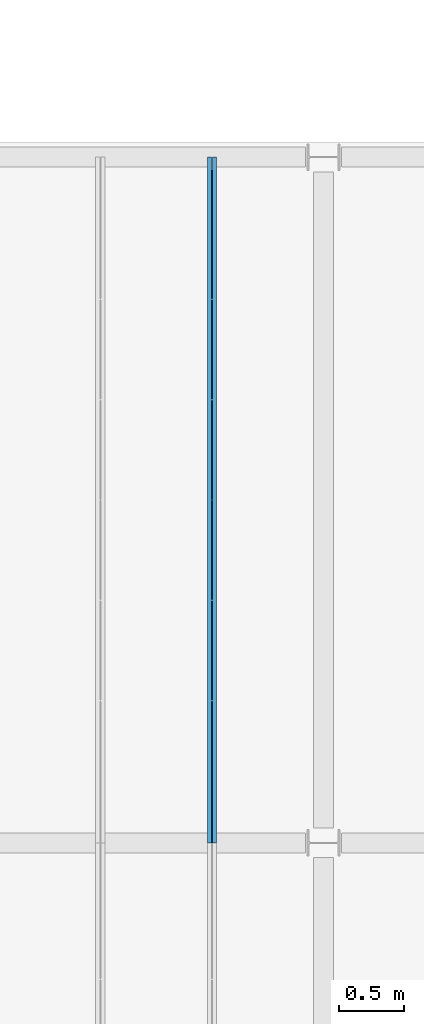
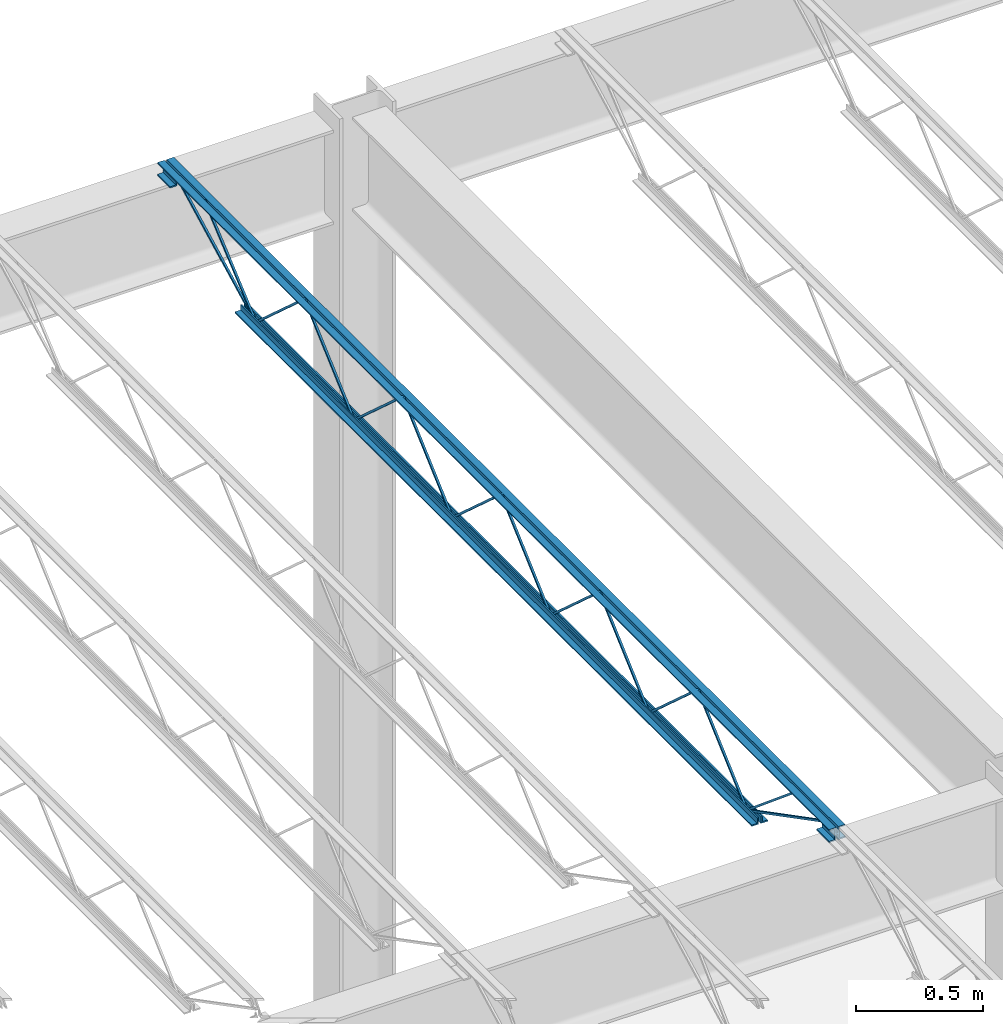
# One storey, part 105 of 119: 1 beam.
"""IFC2X3 building model written with IfcOpenShell, lengths in metres."""

from ifc_helpers import new_model, entity, si_unit, converted_unit, frame, origin, place, context, project, spatial, face_set, surface_model, element, save


model = new_model("IFC2X3")

# Units and contexts
model_context = context("Model", 3, precision=1e-09, world=origin())
plan_context = context("Plan", 3, precision=1e-09, world=origin())
ifc_project = project(units=[si_unit("LENGTHUNIT", "METRE"), si_unit("AREAUNIT", "SQUARE_METRE"), si_unit("VOLUMEUNIT", "CUBIC_METRE"), converted_unit("PLANEANGLEUNIT", "DEGREE", entity("IfcRatioMeasure", 0.01745329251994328), si_unit("PLANEANGLEUNIT", "RADIAN"), dimensions=[0, 0, 0, 0, 0, 0, 0]), si_unit("TIMEUNIT", "SECOND")], contexts=[model_context, plan_context])

# Site, building, storey
site_placement = place(None, origin())
site = spatial("IfcSite", under=ifc_project, at=site_placement, Name="Default", CompositionType="ELEMENT")
building_placement = place(site_placement, origin())
building = spatial("IfcBuilding", under=site, at=building_placement, CompositionType="ELEMENT")
storey_placement = place(building_placement, frame((0.0, 0.0, 4.570000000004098)))
storey = spatial("IfcBuildingStorey", under=building, at=storey_placement, Name="Second Floor", CompositionType="ELEMENT", Elevation=4.570000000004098)

# Beam
beam_placement = place(storey_placement, frame((-15.78006249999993, 44.78049999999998, 4.323999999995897)))
element("IfcBeam", 1, at=beam_placement, inside=storey, Name="M_K-Series Bar Joist-Rod Web:14K1:14K1", ObjectType="M_K-Series Bar Joist-Rod Web:14K1", context=model_context, shape_type="SurfaceModel", body=[
    surface_model("IfcFaceBasedSurfaceModel", [(0.04149999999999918, 3.042999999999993, 0.01110000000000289), (0.03200000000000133, 3.042999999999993, 0.01110000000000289), (0.03200000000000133, 3.042999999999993, 0.001600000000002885), (0.04149999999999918, 3.042999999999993, 0.001600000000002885), (0.03199999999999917, 3.044354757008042, 0.01110000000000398), (0.04149999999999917, 3.044354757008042, 0.01110000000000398), (0.03200000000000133, 3.047995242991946, 0.001600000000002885), (0.03200000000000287, 3.430145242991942, 0.3449000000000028), (0.03200000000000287, 3.432854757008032, 0.3449000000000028), (0.03200000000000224, 3.815004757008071, 0.001600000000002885), (0.03200000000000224, 3.819999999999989, 0.001600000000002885), (0.03200000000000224, 3.819999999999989, 0.01110000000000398), (0.03200000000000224, 3.818645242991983, 0.01110000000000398), (0.0320000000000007, 3.436495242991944, 0.3544000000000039), (0.03200000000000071, 3.426504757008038, 0.3544000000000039), (0.04150000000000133, 3.047995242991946, 0.001600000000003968), (0.04149999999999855, 3.43014524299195, 0.3449000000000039), (0.04149999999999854, 3.432854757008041, 0.3449000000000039), (0.04150000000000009, 3.815004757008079, 0.001600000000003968), (0.04150000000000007, 3.819999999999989, 0.001600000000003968), (0.04150000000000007, 3.819999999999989, 0.01110000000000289), (0.04150000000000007, 3.818645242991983, 0.01110000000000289), (0.0415000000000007, 3.436495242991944, 0.3544000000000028), (0.04150000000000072, 3.426504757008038, 0.3544000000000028), (0.04150000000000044, 2.265999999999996, 0.01110000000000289), (0.0320000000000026, 2.265999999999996, 0.01110000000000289), (0.0320000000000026, 2.265999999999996, 0.001600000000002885), (0.04150000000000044, 2.265999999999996, 0.001600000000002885), (0.03200000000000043, 2.267354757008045, 0.01110000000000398), (0.04150000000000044, 2.267354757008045, 0.01110000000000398), (0.0320000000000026, 2.270995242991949, 0.001600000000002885), (0.03200000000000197, 2.653145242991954, 0.3449000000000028), (0.03200000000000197, 2.655854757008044, 0.3449000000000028), (0.03200000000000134, 3.038004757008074, 0.001600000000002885), (0.0320000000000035, 3.042999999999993, 0.01110000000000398), (0.03200000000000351, 3.041645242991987, 0.01110000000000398), (0.03200000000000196, 2.659495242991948, 0.3544000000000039), (0.03200000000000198, 2.649504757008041, 0.3544000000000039), (0.0415000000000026, 2.270995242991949, 0.001600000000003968), (0.04149999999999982, 2.653145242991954, 0.3449000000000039), (0.0414999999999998, 2.655854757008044, 0.3449000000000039), (0.04150000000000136, 3.038004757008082, 0.001600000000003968), (0.04150000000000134, 3.042999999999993, 0.001600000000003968), (0.04149999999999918, 3.041645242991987, 0.01110000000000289), (0.0414999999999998, 2.659495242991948, 0.3544000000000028), (0.04149999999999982, 2.649504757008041, 0.3544000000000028), (0.04149999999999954, 1.488999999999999, 0.01110000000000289), (0.03200000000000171, 1.488999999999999, 0.01110000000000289), (0.03200000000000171, 1.488999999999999, 0.001600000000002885), (0.04149999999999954, 1.488999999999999, 0.001600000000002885), (0.03199999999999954, 1.490354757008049, 0.01110000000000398), (0.04149999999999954, 1.490354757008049, 0.01110000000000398), (0.0320000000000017, 1.493995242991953, 0.001600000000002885), (0.03200000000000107, 1.876145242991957, 0.3449000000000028), (0.03200000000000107, 1.878854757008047, 0.3449000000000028), (0.03200000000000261, 2.261004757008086, 0.001600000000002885), (0.0320000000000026, 2.266000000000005, 0.001600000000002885), (0.0320000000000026, 2.265999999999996, 0.01110000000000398), (0.0320000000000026, 2.26464524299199, 0.01110000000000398), (0.03200000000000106, 1.882495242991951, 0.3544000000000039), (0.03200000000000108, 1.872504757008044, 0.3544000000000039), (0.0415000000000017, 1.493995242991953, 0.001600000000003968), (0.04149999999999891, 1.876145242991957, 0.3449000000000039), (0.04149999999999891, 1.878854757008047, 0.3449000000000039), (0.04150000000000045, 2.261004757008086, 0.001600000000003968), (0.04150000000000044, 2.265999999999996, 0.001600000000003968), (0.04150000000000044, 2.266000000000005, 0.01110000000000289), (0.04150000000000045, 2.26464524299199, 0.01110000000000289), (0.0414999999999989, 1.88249524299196, 0.3544000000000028), (0.04149999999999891, 1.872504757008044, 0.3544000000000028), (0.04149999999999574, 3.819999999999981, 0.01109999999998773), (0.03199999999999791, 3.819999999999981, 0.01109999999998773), (0.03199999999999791, 3.819999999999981, 0.001599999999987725), (0.04149999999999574, 3.819999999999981, 0.001599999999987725), (0.0319999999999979, 3.82135475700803, 0.01109999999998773), (0.04149999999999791, 3.82135475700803, 0.01109999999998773), (0.03199999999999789, 3.824995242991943, 0.001599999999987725), (0.03199999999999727, 4.207145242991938, 0.3448999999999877), (0.03199999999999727, 4.209854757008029, 0.3448999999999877), (0.03199999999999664, 4.592004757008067, 0.001599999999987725), (0.03199999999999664, 4.596999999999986, 0.001599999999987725), (0.0319999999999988, 4.596999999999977, 0.01109999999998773), (0.0319999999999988, 4.595645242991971, 0.01109999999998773), (0.03199999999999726, 4.213495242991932, 0.3543999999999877), (0.03199999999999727, 4.203504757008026, 0.3543999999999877), (0.0414999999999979, 3.824995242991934, 0.001599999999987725), (0.04149999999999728, 4.207145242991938, 0.3448999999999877), (0.04149999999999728, 4.209854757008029, 0.3448999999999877), (0.04149999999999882, 4.592004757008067, 0.001599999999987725), (0.04149999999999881, 4.596999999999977, 0.001599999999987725), (0.04149999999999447, 4.596999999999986, 0.01109999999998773), (0.04149999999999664, 4.59564524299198, 0.01109999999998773), (0.04149999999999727, 4.213495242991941, 0.3543999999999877), (0.04149999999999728, 4.203504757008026, 0.3543999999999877), (0.04150000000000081, 0.7120000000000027, 0.01110000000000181), (0.03200000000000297, 0.7120000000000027, 0.01110000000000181), (0.03200000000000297, 0.7120000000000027, 0.001600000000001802), (0.04150000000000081, 0.7120000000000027, 0.001600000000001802), (0.03200000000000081, 0.7133547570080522, 0.01110000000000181), (0.04150000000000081, 0.7133547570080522, 0.01110000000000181), (0.03200000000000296, 0.7169952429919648, 0.001600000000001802), (0.03200000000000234, 1.09914524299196, 0.3449000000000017), (0.03200000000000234, 1.101854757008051, 0.3449000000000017), (0.03200000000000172, 1.484004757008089, 0.001600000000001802), (0.03200000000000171, 1.489000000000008, 0.001600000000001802), (0.03200000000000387, 1.488999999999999, 0.01110000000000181), (0.03200000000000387, 1.487645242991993, 0.01110000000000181), (0.03200000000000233, 1.105495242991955, 0.3544000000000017), (0.03200000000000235, 1.095504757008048, 0.3544000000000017), (0.04150000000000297, 0.7169952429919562, 0.001600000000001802), (0.04150000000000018, 1.09914524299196, 0.3449000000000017), (0.04150000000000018, 1.101854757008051, 0.3449000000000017), (0.04150000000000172, 1.484004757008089, 0.001600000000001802), (0.04150000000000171, 1.488999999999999, 0.001600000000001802), (0.04149999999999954, 1.489000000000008, 0.01110000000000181), (0.04149999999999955, 1.487645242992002, 0.01110000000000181), (0.04150000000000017, 1.105495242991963, 0.3544000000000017), (0.04150000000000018, 1.095504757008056, 0.3544000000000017), (0.0319999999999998, 5.309000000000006, 0.3559999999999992), (0.0, 5.309000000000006, 0.3559999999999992), (0.0, 5.309000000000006, 0.3494999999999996), (0.02549999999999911, 5.309000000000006, 0.3494999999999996), (0.02549999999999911, 5.309000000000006, 0.3239999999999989), (0.0319999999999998, 5.309000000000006, 0.3239999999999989), (0.04149999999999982, 5.309000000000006, 0.3559999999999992), (0.04149999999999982, 5.309000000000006, 0.3239999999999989), (0.0480000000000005, 5.309000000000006, 0.3239999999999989), (0.0480000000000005, 5.309000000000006, 0.3494999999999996), (0.07349999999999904, 5.309000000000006, 0.3494999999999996), (0.07349999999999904, 5.309000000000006, 0.3559999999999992), (0.0319999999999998, 0.0, 0.3559999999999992), (0.0, 0.0, 0.3559999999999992), (0.0, 0.0, 0.3494999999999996), (0.02549999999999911, 0.0, 0.3494999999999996), (0.02549999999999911, 0.0, 0.3239999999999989), (0.0319999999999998, 0.0, 0.3239999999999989), (0.0414999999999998, 0.0, 0.3559999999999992), (0.0414999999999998, 0.0, 0.3239999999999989), (0.04800000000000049, 0.0, 0.3239999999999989), (0.04800000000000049, 0.0, 0.3494999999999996), (0.07349999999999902, 0.0, 0.3494999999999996), (0.07349999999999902, 0.0, 0.3559999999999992), (0.04149999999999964, 0.09999999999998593, 0.2924999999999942), (0.07349999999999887, 0.09999999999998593, 0.2924999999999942), (0.07349999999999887, 0.09999999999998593, 0.2989999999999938), (0.04800000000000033, 0.09999999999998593, 0.2989999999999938), (0.04800000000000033, 0.09999999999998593, 0.3239999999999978), (0.04149999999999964, 0.09999999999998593, 0.3239999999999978), (0.0, 0.09999999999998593, 0.2924999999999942), (0.03199999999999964, 0.09999999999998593, 0.2924999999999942), (0.03199999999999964, 0.09999999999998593, 0.3239999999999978), (0.02549999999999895, 0.09999999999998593, 0.3239999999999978), (0.02549999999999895, 0.09999999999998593, 0.2989999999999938), (0.0, 0.09999999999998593, 0.2989999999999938), (0.0414999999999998, 0.0, 0.2924999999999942), (0.07349999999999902, 0.0, 0.2924999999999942), (0.07349999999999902, 0.0, 0.2989999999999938), (0.04800000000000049, 0.0, 0.2989999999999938), (0.04800000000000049, 0.0, 0.3239999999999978), (0.0414999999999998, 0.0, 0.3239999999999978), (0.0, 0.0, 0.2924999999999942), (0.0319999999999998, 0.0, 0.2924999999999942), (0.0319999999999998, 0.0, 0.3239999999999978), (0.02549999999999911, 0.0, 0.3239999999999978), (0.02549999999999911, 0.0, 0.2989999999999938), (0.0, 0.0, 0.2989999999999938), (0.0319999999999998, 5.309000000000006, 0.2924999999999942), (0.0319999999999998, 5.309000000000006, 0.3239999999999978), (0.02550000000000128, 5.309000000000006, 0.3239999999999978), (0.02550000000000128, 5.309000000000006, 0.2989999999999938), (0.0, 5.309000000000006, 0.2989999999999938), (0.0, 5.309000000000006, 0.2924999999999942), (0.04149999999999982, 5.309000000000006, 0.2924999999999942), (0.0735000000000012, 5.309000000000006, 0.2924999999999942), (0.0735000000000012, 5.309000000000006, 0.2989999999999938), (0.0480000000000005, 5.309000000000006, 0.2989999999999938), (0.0480000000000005, 5.309000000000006, 0.3239999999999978), (0.04149999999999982, 5.309000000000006, 0.3239999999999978), (0.03199999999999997, 5.209000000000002, 0.2924999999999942), (0.03199999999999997, 5.209000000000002, 0.3239999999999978), (0.02550000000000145, 5.209000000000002, 0.3239999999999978), (0.02550000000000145, 5.209000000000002, 0.2989999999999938), (0.0, 5.209000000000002, 0.2989999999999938), (0.0, 5.209000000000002, 0.2924999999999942), (0.04149999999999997, 5.209000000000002, 0.2924999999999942), (0.07350000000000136, 5.209000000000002, 0.2924999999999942), (0.07350000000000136, 5.209000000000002, 0.2989999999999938), (0.04800000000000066, 5.209000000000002, 0.2989999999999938), (0.04800000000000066, 5.209000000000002, 0.3239999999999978), (0.04149999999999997, 5.209000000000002, 0.3239999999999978), (0.0320000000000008, 4.697000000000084, 0.0), (0.0320000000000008, 4.697000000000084, 0.03199999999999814), (0.02550000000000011, 4.697000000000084, 0.03199999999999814), (0.02550000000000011, 4.697000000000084, 0.006499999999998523), (0.0, 4.697000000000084, 0.006499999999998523), (0.0, 4.697000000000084, 0.0), (0.04150000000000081, 4.697000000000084, 0.0), (0.07350000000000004, 4.697000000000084, 0.0), (0.07350000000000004, 4.697000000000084, 0.006499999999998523), (0.0480000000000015, 4.697000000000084, 0.006499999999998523), (0.0480000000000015, 4.697000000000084, 0.03199999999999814), (0.04150000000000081, 4.697000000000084, 0.03199999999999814), (0.03199999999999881, 0.6120000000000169, 0.0), (0.03199999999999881, 0.6120000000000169, 0.03199999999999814), (0.02549999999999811, 0.6120000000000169, 0.03199999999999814), (0.02549999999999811, 0.6120000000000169, 0.006499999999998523), (0.0, 0.6120000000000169, 0.006499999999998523), (0.0, 0.6120000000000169, 0.0), (0.04149999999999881, 0.6120000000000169, 0.0), (0.07349999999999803, 0.6120000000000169, 0.0), (0.07349999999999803, 0.6120000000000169, 0.006499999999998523), (0.04799999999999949, 0.6120000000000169, 0.006499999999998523), (0.04799999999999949, 0.6120000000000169, 0.03199999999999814), (0.04149999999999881, 0.6120000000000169, 0.03199999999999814), (0.04150000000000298, 0.7141882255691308, 0.01056594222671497), (0.03200000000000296, 0.7141882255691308, 0.01056594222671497), (0.03200000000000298, 0.709811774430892, 0.00213405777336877), (0.04150000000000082, 0.709811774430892, 0.00213405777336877), (0.04150000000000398, 0.1011592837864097, 0.3287499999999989), (0.04150000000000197, 0.0, 0.3287499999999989), (0.04150000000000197, 0.0, 0.3192499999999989), (0.04150000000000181, 0.09884071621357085, 0.3192499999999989), (0.03200000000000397, 0.09884071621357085, 0.3192499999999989), (0.03200000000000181, 0.1011592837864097, 0.3287499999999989), (0.03200000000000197, 0.0, 0.3287499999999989), (0.03200000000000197, 0.0, 0.3192499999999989), (0.04149999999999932, 0.3035428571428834, 0.3417000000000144), (0.03200000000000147, 0.3035428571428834, 0.3417000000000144), (0.03200000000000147, 0.3035428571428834, 0.3322000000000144), (0.04149999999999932, 0.3035428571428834, 0.3322000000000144), (0.03199999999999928, 0.3179658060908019, 0.3417000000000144), (0.04149999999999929, 0.3179658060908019, 0.3417000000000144), (0.03200000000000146, 0.3145199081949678, 0.3322000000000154), (0.03200000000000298, 0.7089547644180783, 0.002704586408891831), (0.0320000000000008, 0.7150452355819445, 0.009995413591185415), (0.04150000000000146, 0.3145199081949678, 0.3322000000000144), (0.04149999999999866, 0.7089547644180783, 0.002704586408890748), (0.04150000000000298, 0.7150452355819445, 0.009995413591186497), (0.04150000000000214, 5.211188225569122, 0.3197840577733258), (0.04149999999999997, 5.206811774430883, 0.328215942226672), (0.03199999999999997, 5.206811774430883, 0.328215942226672), (0.03200000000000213, 5.211188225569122, 0.3197840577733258), (0.04150000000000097, 4.599188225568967, 0.002134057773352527), (0.04149999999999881, 4.594811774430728, 0.01056594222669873), (0.03199999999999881, 4.594811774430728, 0.01056594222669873), (0.03200000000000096, 4.599188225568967, 0.002134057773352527), (0.04150000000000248, 5.00309445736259, 0.3460340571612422), (0.04150000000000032, 4.996934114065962, 0.35326594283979), (0.03200000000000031, 4.996934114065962, 0.3532659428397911), (0.03200000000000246, 5.00309445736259, 0.3460340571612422), (0.04150000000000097, 4.600080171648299, 0.002734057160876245), (0.04149999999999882, 4.593919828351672, 0.00996594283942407), (0.03199999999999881, 4.593919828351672, 0.00996594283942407), (0.03200000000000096, 4.600080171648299, 0.002734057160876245)], [face_set([[[0, 1, 2, 3]], [[1, 4, 5, 0]], [[2, 6, 7, 8, 9, 10, 11, 12, 13, 14, 4, 1]], [[3, 2, 6, 15]], [[0, 3, 15, 16, 17, 18, 19, 20, 21, 22, 23, 5]], [[4, 5, 23, 14]], [[15, 16, 7, 6]], [[14, 13, 22, 23]], [[16, 7, 8, 17]], [[13, 12, 21, 22]], [[17, 8, 9, 18]], [[20, 11, 10, 19]], [[12, 11, 20, 21]], [[18, 9, 10, 19]]]), face_set([[[24, 25, 26, 27]], [[25, 28, 29, 24]], [[26, 30, 31, 32, 33, 2, 34, 35, 36, 37, 28, 25]], [[27, 26, 30, 38]], [[24, 27, 38, 39, 40, 41, 42, 0, 43, 44, 45, 29]], [[28, 29, 45, 37]], [[38, 39, 31, 30]], [[37, 36, 44, 45]], [[39, 31, 32, 40]], [[36, 35, 43, 44]], [[40, 32, 33, 41]], [[0, 34, 2, 42]], [[35, 34, 0, 43]], [[41, 33, 2, 42]]]), face_set([[[46, 47, 48, 49]], [[47, 50, 51, 46]], [[48, 52, 53, 54, 55, 56, 57, 58, 59, 60, 50, 47]], [[49, 48, 52, 61]], [[46, 49, 61, 62, 63, 64, 65, 66, 67, 68, 69, 51]], [[50, 51, 69, 60]], [[61, 62, 53, 52]], [[60, 59, 68, 69]], [[62, 53, 54, 63]], [[59, 58, 67, 68]], [[63, 54, 55, 64]], [[66, 57, 56, 65]], [[58, 57, 66, 67]], [[64, 55, 56, 65]]]), face_set([[[70, 71, 72, 73]], [[71, 74, 75, 70]], [[72, 76, 77, 78, 79, 80, 81, 82, 83, 84, 74, 71]], [[73, 72, 76, 85]], [[70, 73, 85, 86, 87, 88, 89, 90, 91, 92, 93, 75]], [[74, 75, 93, 84]], [[85, 86, 77, 76]], [[84, 83, 92, 93]], [[86, 77, 78, 87]], [[83, 82, 91, 92]], [[87, 78, 79, 88]], [[90, 81, 80, 89]], [[82, 81, 90, 91]], [[88, 79, 80, 89]]]), face_set([[[94, 95, 96, 97]], [[95, 98, 99, 94]], [[96, 100, 101, 102, 103, 104, 105, 106, 107, 108, 98, 95]], [[97, 96, 100, 109]], [[94, 97, 109, 110, 111, 112, 113, 114, 115, 116, 117, 99]], [[98, 99, 117, 108]], [[109, 110, 101, 100]], [[108, 107, 116, 117]], [[110, 101, 102, 111]], [[107, 106, 115, 116]], [[111, 102, 103, 112]], [[114, 105, 104, 113]], [[106, 105, 114, 115]], [[112, 103, 104, 113]]]), face_set([[[118, 119, 120, 121, 122, 123]], [[124, 125, 126, 127, 128, 129]], [[130, 131, 132, 133, 134, 135]], [[136, 137, 138, 139, 140, 141]], [[123, 118, 130, 135]], [[122, 123, 135, 134]], [[121, 133, 134, 122]], [[120, 121, 133, 132]], [[119, 131, 132, 120]], [[118, 130, 131, 119]], [[129, 141, 136, 124]], [[128, 129, 141, 140]], [[127, 128, 140, 139]], [[126, 127, 139, 138]], [[125, 126, 138, 137]], [[124, 136, 137, 125]]]), face_set([[[142, 143, 144, 145, 146, 147]], [[148, 149, 150, 151, 152, 153]], [[154, 155, 156, 157, 158, 159]], [[160, 161, 162, 163, 164, 165]], [[147, 159, 154, 142]], [[146, 158, 159, 147]], [[145, 146, 158, 157]], [[144, 156, 157, 145]], [[143, 144, 156, 155]], [[142, 143, 155, 154]], [[153, 165, 160, 148]], [[152, 164, 165, 153]], [[151, 163, 164, 152]], [[150, 162, 163, 151]], [[149, 150, 162, 161]], [[148, 149, 161, 160]]]), face_set([[[166, 167, 168, 169, 170, 171]], [[172, 173, 174, 175, 176, 177]], [[178, 179, 180, 181, 182, 183]], [[184, 185, 186, 187, 188, 189]], [[171, 166, 178, 183]], [[170, 182, 183, 171]], [[169, 181, 182, 170]], [[168, 180, 181, 169]], [[167, 179, 180, 168]], [[166, 167, 179, 178]], [[177, 189, 184, 172]], [[176, 188, 189, 177]], [[175, 176, 188, 187]], [[174, 186, 187, 175]], [[173, 174, 186, 185]], [[172, 173, 185, 184]]]), face_set([[[190, 191, 192, 193, 194, 195]], [[196, 197, 198, 199, 200, 201]], [[202, 203, 204, 205, 206, 207]], [[208, 209, 210, 211, 212, 213]], [[195, 190, 202, 207]], [[194, 206, 207, 195]], [[193, 205, 206, 194]], [[192, 204, 205, 193]], [[191, 203, 204, 192]], [[190, 191, 203, 202]], [[201, 213, 208, 196]], [[200, 212, 213, 201]], [[199, 200, 212, 211]], [[198, 210, 211, 199]], [[197, 198, 210, 209]], [[196, 197, 209, 208]]]), face_set([[[214, 215, 216, 217]], [[217, 214, 218, 219, 220, 221]], [[216, 217, 221, 222]], [[215, 223, 224, 225, 222, 216]], [[214, 218, 223, 215]], [[219, 224, 225, 220]], [[222, 221, 220, 225]], [[218, 219, 224, 223]]]), face_set([[[226, 227, 228, 229]], [[227, 230, 231, 226]], [[228, 232, 233, 234, 230, 227]], [[229, 228, 232, 235]], [[226, 229, 235, 236, 237, 231]], [[237, 234, 233, 236]], [[230, 234, 237, 231]], [[235, 232, 233, 236]]]), face_set([[[238, 239, 240, 241]], [[242, 243, 244, 245]], [[241, 245, 242, 238]], [[240, 244, 245, 241]], [[239, 240, 244, 243]], [[238, 239, 243, 242]]]), face_set([[[246, 247, 248, 249]], [[250, 251, 252, 253]], [[249, 253, 250, 246]], [[248, 252, 253, 249]], [[247, 248, 252, 251]], [[246, 247, 251, 250]]])]),
])

save(model, "model.ifc")
